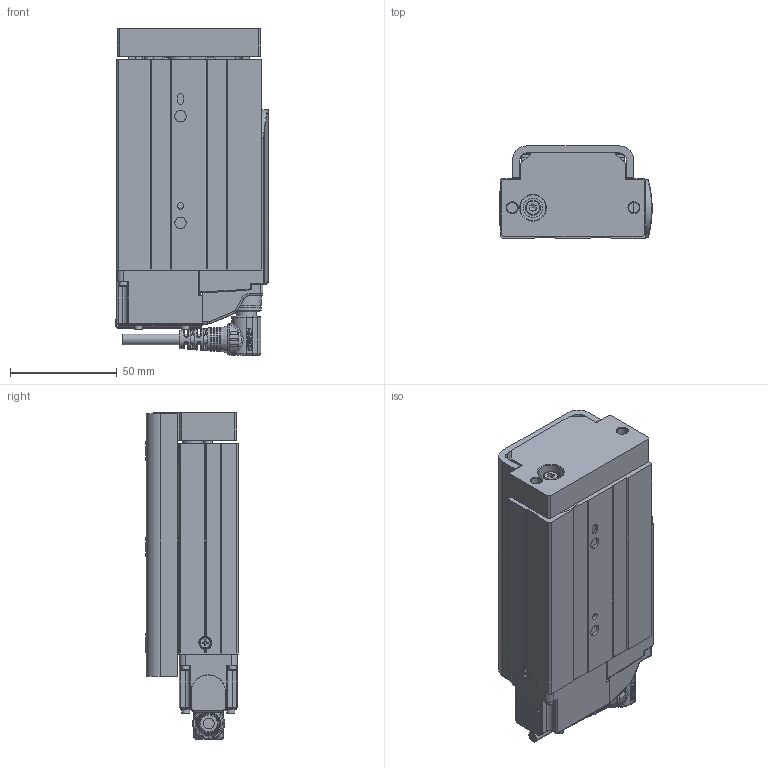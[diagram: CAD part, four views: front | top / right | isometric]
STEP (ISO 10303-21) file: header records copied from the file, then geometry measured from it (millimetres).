
FILE_DESCRIPTION(/* description */ ('STEP AP203'),/* implementation_level */ '2;1');
FILE_NAME(/* name */ 'D:\暫\2025.02.06 CSG 3D\CSG25-B\CSG25-S50-B-WR.stp',/* time_stamp */ '2025-02-08T10:34:01+08:00',/* author */ ('T10033'),/* organization */ (''),/* preprocessor_version */ 'ST-DEVELOPER v18.1',/* originating_system */ 'Autodesk Inventor 2020',/* authorisation */ '');
FILE_SCHEMA (('CONFIG_CONTROL_DESIGN','MODEL_BASED_INTEGRATED_MANUFACTURING_SCHEMA'));
Products named in the file (29): CSG25-50行程-煞車; ©T©wªO-·¥­­¾×ª
O4-M2¤ú; M12 -14PIN  ªOºÝ-²Ä¤@ºØ
³W®æ; CSG25-50¥»Åé3ª©-ªo¤Õ
½Õ¾ã¨¤«×; countersunk flat head cross recess screw_iso_ISO 7046-1 - M2.5 x 4 - 
Z - 4N; ¶ì½¦ºÝ»-L¼Ë¦¡(TOYO)-°
t¦XPCB(·Ù¨®¥Î)-DF3±µÀYª½
±µ©ñ¤Jª©; IS 2269 - M2 x 10; ISO 4762 - M2.5 x 6ISO; PCB; 423T324GV F; 22024-000496; plain washer 10673 type snl_iso_ISO 10673-4.55-S; 22035-000061(G4ªo¯]); countersunk flat head cross recess screw_iso_ISO 7046-1 - M2.5 x 4 - 
Z - 4N_1; plain washer 10673 type snl_iso_ISO 10673-2.75-S; socket head cap screw_iso_ISO 4762 M2.5 x 5 - 5N; ©T©wªO-·¥­­¾×ª
O4-M2¤ú_1; socket head cap screw_iso_ISO 4762 M2.5 x 6 - 6N; socket head cap screw_iso_ISO 4762 M2.5 x 8 - 8N; socket head cap screw_iso_ISO 4762 M2 x 12 - 12N; M12 -14PIN  ªOºÝ-²Ä¤@ºØ
³W®æ_1; CSG25-50¥»Åé3ª©-ªo¤Õ
½Õ¾ã¨¤«×_1; 12003-000221-­×§ï; CSG25-Carriage-newtype; CNS 3932 - M 4 x 0.7 x 12; CNS 4558 - M5 x 0.8 x 12; Solid1-2; 43T34 TFSDR_Shrinkwrap_1; M12-14PIN 線端90度接頭-05中繼線
Assembly tree (40 placements, depth 3):
  CSG25-50行程-煞車
    ©T©wªO-·¥­­¾×ª
O4-M2¤ú
    M12 -14PIN  ªOºÝ-²Ä¤@ºØ
³W®æ
    CSG25-50¥»Åé3ª©-ªo¤Õ
½Õ¾ã¨¤«×
    countersunk flat head cross recess screw_iso_ISO 7046-1 - M2.5 x 4 - 
Z - 4N
    ¶ì½¦ºÝ»-L¼Ë¦¡(TOYO)-°
t¦XPCB(·Ù¨®¥Î)-DF3±µÀYª½
±µ©ñ¤Jª©
    IS 2269 - M2 x 10  x2
    ISO 4762 - M2.5 x 6ISO  x2
    PCB
    423T324GV F
      22024-000496
      plain washer 10673 type snl_iso_ISO 10673-4.55-S
      22035-000061(G4ªo¯])
      socket head cap screw_iso_ISO 4762 M2.5 x 8 - 8N  x8
      countersunk flat head cross recess screw_iso_ISO 7046-1 - M2.5 x 4 - 
Z - 4N_1
      plain washer 10673 type snl_iso_ISO 10673-2.75-S
      socket head cap screw_iso_ISO 4762 M2.5 x 5 - 5N
      ©T©wªO-·¥­­¾×ª
O4-M2¤ú_1
      socket head cap screw_iso_ISO 4762 M2.5 x 6 - 6N  x2
      socket head cap screw_iso_ISO 4762 M2 x 12 - 12N  x2
      M12 -14PIN  ªOºÝ-²Ä¤@ºØ
³W®æ_1
      CSG25-50¥»Åé3ª©-ªo¤Õ
½Õ¾ã¨¤«×_1
      12003-000221-­×§ï
      CSG25-Carriage-newtype
      CNS 3932 - M 4 x 0.7 x 12
      CNS 4558 - M5 x 0.8 x 12  x2
      Solid1-2
    43T34 TFSDR_Shrinkwrap_1
    M12-14PIN 線端90度接頭-05中繼線
Bounding box: 71.25 x 43.5 x 153 mm (x, y, z)
Volume: 376706.2 mm3; surface area: 131182.7 mm2
Topology: 54 solids, 62 shells, 3435 faces, 9442 edges, 6261 vertices
Faces by surface type: plane 1715, cylinder 727, bspline 482, cone 351, torus 147, sphere 13
Full cylindrical faces by diameter (mm): 0.6 x28, 0.65 x14, 1 x14, 1.567 x1, 1.6 x8, 2 x6, 2.05 x13, 2.5 x21, 2.75 x1, 2.9 x2, 3 x4, 3.8 x10, 4 x1, 4.134 x8, 4.5 x15, 4.55 x1, 4.7 x2, 4.95 x1, 5 x9, 5.2 x1, 5.3 x2, 5.4 x6, 5.5 x4, 6 x5, 7 x3, 8 x1, 8.9 x1, 9 x13, 9.5 x2, 9.6 x1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
Entity records: 130629 total; most frequent: CARTESIAN_POINT 46450, ORIENTED_EDGE 17593, DIRECTION 16442, EDGE_CURVE 8815, AXIS2_PLACEMENT_3D 5946, VERTEX_POINT 5882, LINE 4550, VECTOR 4550
